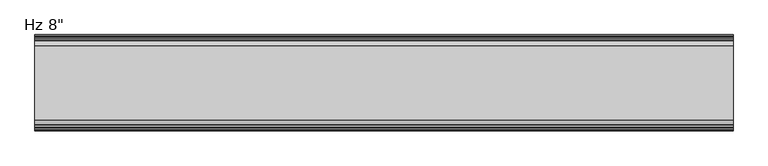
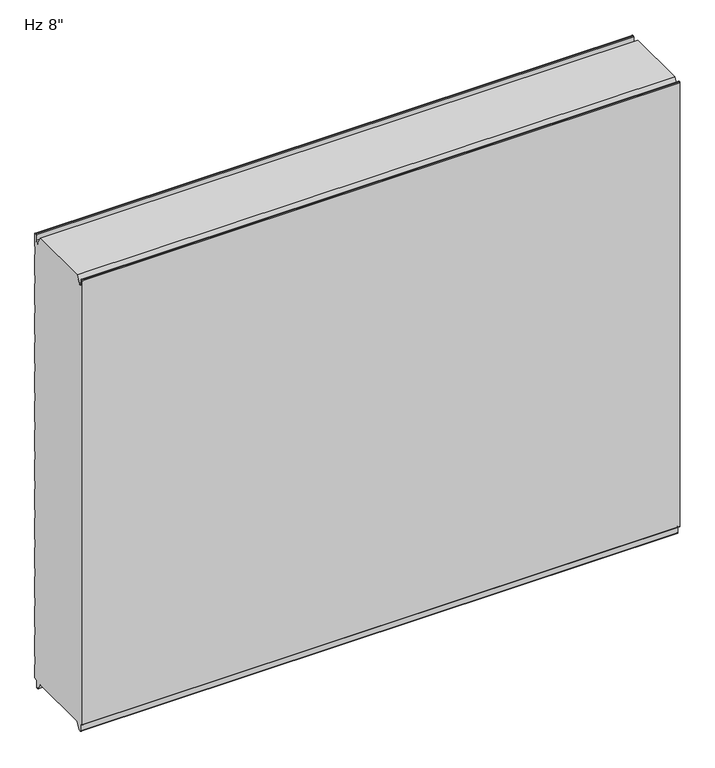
"""IFC4 building model written with IfcOpenShell, lengths in millimetres: plate geometry."""

from ifc_helpers import new_model, si_unit, frame, origin, place, context, project, spatial, polyline, circle_curve, source, transform, mapped, element, save
from ifc_brep_helpers import plane_surface, cylinder_surface, revolved_surface, advanced_brep


def plate_d750eb13(model_context):
    return source(origin(), model_context, "Body", "AdvancedBrep", [
        advanced_brep(
        [(-730.0, -200.2227194, 3.8499499), (-730.0, -202.1999935, 5.8272239), (-730.0, -202.2, 1150.8100652), (-730.0, -200.2227315, 1152.7873337), (-730.0, -199.1806329, 1152.7873337), (-730.0, -197.2033643, 1150.8100652), (-730.0, -197.2033643, 1136.6216802), (-730.0, -194.6154878, 1134.0338036), (-730.0, -190.2950697, 1134.0338036), (-730.0, -189.7060762, 1133.4253365), (-730.0, -189.7060762, 1131.0482432), (-730.0, -188.7066023, 1131.0482432), (-730.0, -188.7066023, 1136.4905123), (-730.0, -179.4490865, 1152.525), (-730.0, -23.7509179, 1152.525), (-730.0, -14.4934021, 1136.4905123), (-730.0, -14.4934021, 1131.0482432), (-730.0, -13.4939282, 1131.0482432), (-730.0, -13.4939282, 1133.4253365), (-730.0, -12.9049347, 1134.0338036), (-730.0, -8.5845165, 1134.0338036), (-730.0, -5.99664, 1136.6216802), (-730.0, -5.99664, 1150.8100652), (-730.0, -4.0193715, 1152.7873337), (-730.0, -2.9772729, 1152.7873337), (-730.0, -1.0000044, 1150.8100652), (-730.0, -1.0000044, 1118.6385351), (-730.0, -2.1911595, 1117.5660142), (-730.0, -2.1911595, 1097.7830195), (-730.0, -1.0, 1096.7104947), (-730.0, -1.0, 1043.0159187), (-730.0, -2.1911595, 1041.9433939), (-730.0, -2.1911595, 1022.1603992), (-730.0, -1.0, 1021.0878744), (-730.0, -1.0, 967.3932985), (-730.0, -2.1911595, 966.3207736), (-730.0, -2.1911595, 946.537779), (-730.0, -1.0, 945.4652541), (-730.0, -1.0, 891.7706782), (-730.0, -2.1911595, 890.6981534), (-730.0, -2.1911595, 870.9151587), (-730.0, -1.0, 869.8426339), (-730.0, -1.0, 816.148058), (-730.0, -2.1911595, 815.0755331), (-730.0, -2.1911595, 795.2925384), (-730.0, -1.0, 794.2200136), (-730.0, -1.0, 740.5254377), (-730.0, -2.1911595, 739.4529129), (-730.0, -2.1911595, 719.6699182), (-730.0, -1.0, 718.5973933), (-730.0, -1.0, 664.9028174), (-730.0, -2.1911595, 663.8302926), (-730.0, -2.1911595, 644.0472979), (-730.0, -1.0, 642.9747731), (-730.0, -1.0, 589.2801972), (-730.0, -2.1911595, 588.2076723), (-730.0, -2.1911595, 568.4246776), (-730.0, -1.0, 567.3521528), (-730.0, -1.0, 513.6575769), (-730.0, -2.1911595, 512.5850521), (-730.0, -2.1911595, 492.8020574), (-730.0, -1.0, 491.7295325), (-730.0, -1.0, 438.0349566), (-730.0, -2.1911595, 436.9624318), (-730.0, -2.1911595, 417.1794371), (-730.0, -1.0, 416.1069123), (-730.0, -1.0, 362.4123364), (-730.0, -2.1911595, 361.3398115), (-730.0, -2.1911595, 341.5568169), (-730.0, -1.0, 340.484292), (-730.0, -1.0, 286.7897161), (-730.0, -2.1911595, 285.7171913), (-730.0, -2.1911595, 265.9341966), (-730.0, -1.0, 264.8616718), (-730.0, -1.0, 211.1670958), (-730.0, -2.1911595, 210.094571), (-730.0, -2.1911595, 190.3115763), (-730.0, -1.0, 189.2390515), (-730.0, -1.0, 135.5444756), (-730.0, -2.1911595, 134.4719507), (-730.0, -2.1911595, 114.6889561), (-730.0, -1.0, 113.6164312), (-730.0, -1.0, 59.9218553), (-730.0, -2.1911595, 58.8493305), (-730.0, -2.1911595, 39.0663358), (-730.0, -1.0000109, 37.993811), (-730.0, -1.0000109, 5.8272239), (-730.0, -2.9772849, 3.8499499), (-730.0, -5.2691749, 3.8499499), (-730.0, -9.246442, -0.1273173), (-730.0, -9.246442, -15.7237417), (-730.0, -9.8343189, -16.3116186), (-730.0, -12.9058679, -16.3116186), (-730.0, -13.4937446, -15.723742), (-730.0, -13.4937446, -13.3687064), (-730.0, -14.4937446, -13.3687064), (-730.0, -14.4937446, -15.6582851), (-730.0, -23.7509179, 0.0), (-730.0, -179.4490865, 0.0), (-730.0, -188.7062598, -15.6582851), (-730.0, -188.7062598, -13.3687064), (-730.0, -189.7062598, -13.3687064), (-730.0, -189.7062598, -15.723742), (-730.0, -190.2941365, -16.3116186), (-730.0, -193.3656854, -16.3116186), (-730.0, -193.9535623, -15.7237417), (-730.0, -193.9535623, -0.1273173), (-730.0, -197.9308295, 3.8499499), (730.0, -200.2227194, 3.8499499), (730.0, -197.9308295, 3.8499499), (730.0, -193.9535623, -0.1273173), (730.0, -193.9535623, -15.7237417), (730.0, -193.3656854, -16.3116186), (730.0, -190.2941365, -16.3116186), (730.0, -189.7062598, -15.723742), (730.0, -189.7062598, -13.3687064), (730.0, -188.7062598, -13.3687064), (730.0, -188.7062598, -15.6582851), (730.0, -179.4490865, 0.0), (730.0, -23.7509179, 0.0), (730.0, -14.4937446, -15.6582851), (730.0, -14.4937446, -13.3687064), (730.0, -13.4937446, -13.3687064), (730.0, -13.4937446, -15.723742), (730.0, -12.9058679, -16.3116186), (730.0, -9.8343189, -16.3116186), (730.0, -9.246442, -15.7237417), (730.0, -9.246442, -0.1273173), (730.0, -5.2691749, 3.8499499), (730.0, -2.9772849, 3.8499499), (730.0, -1.0000109, 5.8272239), (730.0, -1.0000109, 37.993811), (730.0, -2.1911595, 39.0663358), (730.0, -2.1911595, 58.8493305), (730.0, -1.0, 59.9218553), (730.0, -1.0, 113.6164312), (730.0, -2.1911595, 114.6889561), (730.0, -2.1911595, 134.4719507), (730.0, -1.0, 135.5444756), (730.0, -1.0, 189.2390515), (730.0, -2.1911595, 190.3115763), (730.0, -2.1911595, 210.094571), (730.0, -1.0, 211.1670958), (730.0, -1.0, 264.8616718), (730.0, -2.1911595, 265.9341966), (730.0, -2.1911595, 285.7171913), (730.0, -1.0, 286.7897161), (730.0, -1.0, 340.484292), (730.0, -2.1911595, 341.5568169), (730.0, -2.1911595, 361.3398115), (730.0, -1.0, 362.4123364), (730.0, -1.0, 416.1069123), (730.0, -2.1911595, 417.1794371), (730.0, -2.1911595, 436.9624318), (730.0, -1.0, 438.0349566), (730.0, -1.0, 491.7295325), (730.0, -2.1911595, 492.8020574), (730.0, -2.1911595, 512.5850521), (730.0, -1.0, 513.6575769), (730.0, -1.0, 567.3521528), (730.0, -2.1911595, 568.4246776), (730.0, -2.1911595, 588.2076723), (730.0, -1.0, 589.2801972), (730.0, -1.0, 642.9747731), (730.0, -2.1911595, 644.0472979), (730.0, -2.1911595, 663.8302926), (730.0, -1.0, 664.9028174), (730.0, -1.0, 718.5973933), (730.0, -2.1911595, 719.6699182), (730.0, -2.1911595, 739.4529129), (730.0, -1.0, 740.5254377), (730.0, -1.0, 794.2200136), (730.0, -2.1911595, 795.2925384), (730.0, -2.1911595, 815.0755331), (730.0, -1.0, 816.148058), (730.0, -1.0, 869.8426339), (730.0, -2.1911595, 870.9151587), (730.0, -2.1911595, 890.6981534), (730.0, -1.0, 891.7706782), (730.0, -1.0, 945.4652541), (730.0, -2.1911595, 946.537779), (730.0, -2.1911595, 966.3207736), (730.0, -1.0, 967.3932985), (730.0, -1.0, 1021.0878744), (730.0, -2.1911595, 1022.1603992), (730.0, -2.1911595, 1041.9433939), (730.0, -1.0, 1043.0159187), (730.0, -1.0, 1096.7104947), (730.0, -2.1911595, 1097.7830195), (730.0, -2.1911595, 1117.5660142), (730.0, -1.0000044, 1118.6385351), (730.0, -1.0000044, 1150.8100652), (730.0, -2.9772729, 1152.7873337), (730.0, -4.0193715, 1152.7873337), (730.0, -5.99664, 1150.8100652), (730.0, -5.99664, 1136.6216802), (730.0, -8.5845165, 1134.0338036), (730.0, -12.9049347, 1134.0338036), (730.0, -13.4939282, 1133.4253365), (730.0, -13.4939282, 1131.0482432), (730.0, -14.4934021, 1131.0482432), (730.0, -14.4934021, 1136.4905123), (730.0, -23.7509179, 1152.525), (730.0, -179.4490865, 1152.525), (730.0, -188.7066023, 1136.4905123), (730.0, -188.7066023, 1131.0482432), (730.0, -189.7060762, 1131.0482432), (730.0, -189.7060762, 1133.4253365), (730.0, -190.2950697, 1134.0338036), (730.0, -194.6154878, 1134.0338036), (730.0, -197.2033643, 1136.6216802), (730.0, -197.2033643, 1150.8100652), (730.0, -199.1806329, 1152.7873337), (730.0, -200.2227315, 1152.7873337), (730.0, -202.2, 1150.8100652), (730.0, -202.2, 5.8272239)],
        [
            (0, 1, circle_curve(frame((-730.0, -200.2227194, 5.8272239), z_axis=(-1.0, 0.0, 0.0), x_axis=(0.0, 0.0, -1.0)), 1.977274)),
            (1, 2),
            (2, 3, circle_curve(frame((-730.0, -200.2227315, 1150.8100652), z_axis=(-1.0, 0.0, 0.0), x_axis=(0.0, 0.0, -1.0)), 1.9772685)),
            (3, 4),
            (4, 5, circle_curve(frame((-730.0, -199.1806329, 1150.8100652), z_axis=(-1.0, 0.0, 0.0), x_axis=(0.0, 0.0, -1.0)), 1.9772685)),
            (5, 6),
            (6, 7, circle_curve(frame((-730.0, -194.6154878, 1136.6216802), z_axis=(1.0, 0.0, 0.0), x_axis=(0.0, 0.0, -1.0)), 2.5878765)),
            (7, 8),
            (8, 9, circle_curve(frame((-730.0, -190.2950697, 1133.4444985), z_axis=(-1.0, 0.0, 0.0), x_axis=(0.0, 0.0, -1.0)), 0.5893051)),
            (9, 10),
            (10, 11),
            (11, 12),
            (12, 13),
            (13, 14),
            (14, 15),
            (15, 16),
            (16, 17),
            (17, 18),
            (18, 19, circle_curve(frame((-730.0, -12.9049347, 1133.4444985), z_axis=(-1.0, 0.0, 0.0), x_axis=(0.0, 1.0, 0.0)), 0.5893051)),
            (19, 20),
            (20, 21, circle_curve(frame((-730.0, -8.5845165, 1136.6216802), z_axis=(1.0, 0.0, 0.0), x_axis=(0.0, 1.0, 0.0)), 2.5878765)),
            (21, 22),
            (22, 23, circle_curve(frame((-730.0, -4.0193715, 1150.8100652), z_axis=(-1.0, 0.0, 0.0), x_axis=(0.0, 1.0, 0.0)), 1.9772685)),
            (23, 24),
            (24, 25, circle_curve(frame((-730.0, -2.9772729, 1150.8100652), z_axis=(-1.0, 0.0, 0.0), x_axis=(0.0, 1.0, 0.0)), 1.9772685)),
            (25, 26),
            (26, 27),
            (27, 28),
            (28, 29),
            (29, 30),
            (30, 31),
            (31, 32),
            (32, 33),
            (33, 34),
            (34, 35),
            (35, 36),
            (36, 37),
            (37, 38),
            (38, 39),
            (39, 40),
            (40, 41),
            (41, 42),
            (42, 43),
            (43, 44),
            (44, 45),
            (45, 46),
            (46, 47),
            (47, 48),
            (48, 49),
            (49, 50),
            (50, 51),
            (51, 52),
            (52, 53),
            (53, 54),
            (54, 55),
            (55, 56),
            (56, 57),
            (57, 58),
            (58, 59),
            (59, 60),
            (60, 61),
            (61, 62),
            (62, 63),
            (63, 64),
            (64, 65),
            (65, 66),
            (66, 67),
            (67, 68),
            (68, 69),
            (69, 70),
            (70, 71),
            (71, 72),
            (72, 73),
            (73, 74),
            (74, 75),
            (75, 76),
            (76, 77),
            (77, 78),
            (78, 79),
            (79, 80),
            (80, 81),
            (81, 82),
            (82, 83),
            (83, 84),
            (84, 85),
            (85, 86),
            (86, 87, circle_curve(frame((-730.0, -2.9772849, 5.8272239), z_axis=(-1.0, 0.0, 0.0), x_axis=(0.0, 1.0, 0.0)), 1.977274)),
            (87, 88),
            (88, 89, circle_curve(frame((-730.0, -5.2691749, -0.1273173), z_axis=(1.0, 0.0, 0.0), x_axis=(0.0, 1.0, 0.0)), 3.9772671)),
            (89, 90),
            (90, 91, circle_curve(frame((-730.0, -9.8343189, -15.7237417), z_axis=(-1.0, 0.0, 0.0), x_axis=(0.0, 1.0, 0.0)), 0.5878769)),
            (91, 92),
            (92, 93, circle_curve(frame((-730.0, -12.9058679, -15.723742), z_axis=(-1.0, 0.0, 0.0), x_axis=(0.0, 1.0, 0.0)), 0.5878766)),
            (93, 94),
            (94, 95),
            (95, 96),
            (96, 97),
            (97, 98),
            (98, 99),
            (99, 100),
            (100, 101),
            (101, 102),
            (102, 103, circle_curve(frame((-730.0, -190.2941365, -15.723742), z_axis=(-1.0, 0.0, 0.0), x_axis=(0.0, 0.0, -1.0)), 0.5878766)),
            (103, 104),
            (104, 105, circle_curve(frame((-730.0, -193.3656854, -15.7237417), z_axis=(-1.0, 0.0, 0.0), x_axis=(0.0, 0.0, -1.0)), 0.5878769)),
            (105, 106),
            (106, 107, circle_curve(frame((-730.0, -197.9308295, -0.1273173), z_axis=(1.0, 0.0, 0.0), x_axis=(0.0, 0.0, -1.0)), 3.9772671)),
            (107, 0),
            (108, 109),
            (109, 110, circle_curve(frame((730.0, -197.9308295, -0.1273173), z_axis=(-1.0, 0.0, 0.0), x_axis=(0.0, 0.0, -1.0)), 3.9772671)),
            (110, 111),
            (111, 112, circle_curve(frame((730.0, -193.3656854, -15.7237417), z_axis=(1.0, 0.0, 0.0), x_axis=(0.0, 0.0, -1.0)), 0.5878769)),
            (112, 113),
            (113, 114, circle_curve(frame((730.0, -190.2941365, -15.723742), z_axis=(1.0, 0.0, 0.0), x_axis=(0.0, 0.0, -1.0)), 0.5878766)),
            (114, 115),
            (115, 116),
            (116, 117),
            (117, 118),
            (118, 119),
            (119, 120),
            (120, 121),
            (121, 122),
            (122, 123),
            (123, 124, circle_curve(frame((730.0, -12.9058679, -15.723742), z_axis=(1.0, 0.0, 0.0), x_axis=(0.0, 1.0, 0.0)), 0.5878766)),
            (124, 125),
            (125, 126, circle_curve(frame((730.0, -9.8343189, -15.7237417), z_axis=(1.0, 0.0, 0.0), x_axis=(0.0, 1.0, 0.0)), 0.5878769)),
            (126, 127),
            (127, 128, circle_curve(frame((730.0, -5.2691749, -0.1273173), z_axis=(-1.0, 0.0, 0.0), x_axis=(0.0, 1.0, 0.0)), 3.9772671)),
            (128, 129),
            (129, 130, circle_curve(frame((730.0, -2.9772849, 5.8272239), z_axis=(1.0, 0.0, 0.0), x_axis=(0.0, 1.0, 0.0)), 1.977274)),
            (130, 131),
            (131, 132),
            (132, 133),
            (133, 134),
            (134, 135),
            (135, 136),
            (136, 137),
            (137, 138),
            (138, 139),
            (139, 140),
            (140, 141),
            (141, 142),
            (142, 143),
            (143, 144),
            (144, 145),
            (145, 146),
            (146, 147),
            (147, 148),
            (148, 149),
            (149, 150),
            (150, 151),
            (151, 152),
            (152, 153),
            (153, 154),
            (154, 155),
            (155, 156),
            (156, 157),
            (157, 158),
            (158, 159),
            (159, 160),
            (160, 161),
            (161, 162),
            (162, 163),
            (163, 164),
            (164, 165),
            (165, 166),
            (166, 167),
            (167, 168),
            (168, 169),
            (169, 170),
            (170, 171),
            (171, 172),
            (172, 173),
            (173, 174),
            (174, 175),
            (175, 176),
            (176, 177),
            (177, 178),
            (178, 179),
            (179, 180),
            (180, 181),
            (181, 182),
            (182, 183),
            (183, 184),
            (184, 185),
            (185, 186),
            (186, 187),
            (187, 188),
            (188, 189),
            (189, 190),
            (190, 191),
            (191, 192, circle_curve(frame((730.0, -2.9772729, 1150.8100652), z_axis=(1.0, 0.0, 0.0), x_axis=(0.0, 1.0, 0.0)), 1.9772685)),
            (192, 193),
            (193, 194, circle_curve(frame((730.0, -4.0193715, 1150.8100652), z_axis=(1.0, 0.0, 0.0), x_axis=(0.0, 1.0, 0.0)), 1.9772685)),
            (194, 195),
            (195, 196, circle_curve(frame((730.0, -8.5845165, 1136.6216802), z_axis=(-1.0, 0.0, 0.0), x_axis=(0.0, 1.0, 0.0)), 2.5878765)),
            (196, 197),
            (197, 198, circle_curve(frame((730.0, -12.9049347, 1133.4444985), z_axis=(1.0, 0.0, 0.0), x_axis=(0.0, 1.0, 0.0)), 0.5893051)),
            (198, 199),
            (199, 200),
            (200, 201),
            (201, 202),
            (202, 203),
            (203, 204),
            (204, 205),
            (205, 206),
            (206, 207),
            (207, 208, circle_curve(frame((730.0, -190.2950697, 1133.4444985), z_axis=(1.0, 0.0, 0.0), x_axis=(0.0, 0.0, -1.0)), 0.5893051)),
            (208, 209),
            (209, 210, circle_curve(frame((730.0, -194.6154878, 1136.6216802), z_axis=(-1.0, 0.0, 0.0), x_axis=(0.0, 0.0, -1.0)), 2.5878765)),
            (210, 211),
            (211, 212, circle_curve(frame((730.0, -199.1806329, 1150.8100652), z_axis=(1.0, 0.0, 0.0), x_axis=(0.0, 0.0, -1.0)), 1.9772685)),
            (212, 213),
            (213, 214, circle_curve(frame((730.0, -200.2227315, 1150.8100652), z_axis=(1.0, 0.0, 0.0), x_axis=(0.0, 0.0, -1.0)), 1.9772685)),
            (214, 215),
            (215, 108, circle_curve(frame((730.0, -200.2227194, 5.8272239), z_axis=(1.0, 0.0, 0.0), x_axis=(0.0, 0.0, -1.0)), 1.977274)),
            (27, 189),
            (188, 28),
            (26, 190),
            (25, 191),
            (24, 192),
            (23, 193),
            (22, 194),
            (21, 195),
            (20, 196),
            (19, 197),
            (18, 198),
            (17, 199),
            (16, 200),
            (15, 201),
            (14, 202),
            (96, 120),
            (119, 97),
            (95, 121),
            (94, 122),
            (93, 123),
            (92, 124),
            (91, 125),
            (90, 126),
            (89, 127),
            (88, 128),
            (87, 129),
            (86, 130),
            (85, 131),
            (84, 132),
            (83, 133),
            (82, 134),
            (81, 135),
            (80, 136),
            (79, 137),
            (78, 138),
            (77, 139),
            (76, 140),
            (75, 141),
            (74, 142),
            (73, 143),
            (72, 144),
            (71, 145),
            (70, 146),
            (69, 147),
            (68, 148),
            (67, 149),
            (66, 150),
            (65, 151),
            (64, 152),
            (63, 153),
            (62, 154),
            (61, 155),
            (60, 156),
            (59, 157),
            (58, 158),
            (57, 159),
            (56, 160),
            (55, 161),
            (54, 162),
            (53, 163),
            (52, 164),
            (51, 165),
            (50, 166),
            (49, 167),
            (48, 168),
            (47, 169),
            (46, 170),
            (45, 171),
            (44, 172),
            (43, 173),
            (42, 174),
            (41, 175),
            (40, 176),
            (39, 177),
            (38, 178),
            (37, 179),
            (36, 180),
            (35, 181),
            (34, 182),
            (33, 183),
            (32, 184),
            (31, 185),
            (30, 186),
            (29, 187),
            (13, 203),
            (118, 98),
            (107, 109),
            (108, 0),
            (106, 110),
            (105, 111),
            (104, 112),
            (103, 113),
            (102, 114),
            (101, 115),
            (100, 116),
            (99, 117),
            (12, 204),
            (11, 205),
            (10, 206),
            (9, 207),
            (8, 208),
            (7, 209),
            (6, 210),
            (5, 211),
            (4, 212),
            (3, 213),
            (2, 214),
            (1, 215),
        ],
        [
            plane_surface(frame((-730.0, -202.2, 576.2625), z_axis=(-1.0, 0.0, 0.0), x_axis=(0.0, -1.0, 0.0))),
            plane_surface(frame((730.0, -202.2, 576.2625), z_axis=(1.0, 0.0, 0.0), x_axis=(0.0, -1.0, 0.0))),
            plane_surface(frame((-730.0, -2.1911595, 1097.7830195), z_axis=(0.0, 1.0, 0.0), x_axis=(1.0, 0.0, 0.0))),
            plane_surface(frame((-730.0, -2.1911595, 1117.5660142), z_axis=(0.0, 0.669130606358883, -0.7431448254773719), x_axis=(1.0, 0.0, 0.0))),
            plane_surface(frame((-730.0, -1.0000044, 1118.6385351), z_axis=(0.0, 1.0, 0.0), x_axis=(1.0, 0.0, 0.0))),
            cylinder_surface(frame((-730.0, -2.9772729, 1150.8100652), z_axis=(-1.0, 0.0, 0.0), x_axis=(0.0, 1.0, 0.0)), 1.9772685),
            plane_surface(frame((-730.0, -2.9772729, 1152.7873337), z_axis=(0.0, 0.0, 1.0), x_axis=(1.0, 0.0, 0.0))),
            cylinder_surface(frame((-730.0, -4.0193715, 1150.8100652), z_axis=(-1.0, 0.0, 0.0), x_axis=(0.0, 1.0, 0.0)), 1.9772685),
            plane_surface(frame((-730.0, -5.99664, 1150.8100652), z_axis=(0.0, -1.0, 0.0), x_axis=(1.0, 0.0, 0.0))),
            revolved_surface(polyline([(730.0, -5.996639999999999, 1136.6216802), (-730.0, -5.996639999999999, 1136.6216802)]), (-730.0, -8.5845165, 1136.6216802), (1.0, 0.0, 0.0)),
            plane_surface(frame((-730.0, -8.5845165, 1134.0338036), z_axis=(0.0, 0.0, 1.0), x_axis=(1.0, 0.0, 0.0))),
            cylinder_surface(frame((-730.0, -12.9049347, 1133.4444985), z_axis=(-1.0, 0.0, 0.0), x_axis=(0.0, 1.0, 0.0)), 0.5893051),
            plane_surface(frame((-730.0, -13.4939282, 1133.4253365), z_axis=(0.0, -1.0, 0.0), x_axis=(1.0, 0.0, 0.0))),
            plane_surface(frame((-730.0, -13.4939282, 1131.0482432), z_axis=(0.0, 0.0, 1.0), x_axis=(1.0, 0.0, 0.0))),
            plane_surface(frame((-730.0, -14.4934021, 1131.0482432), z_axis=(0.0, 1.0, 0.0), x_axis=(1.0, 0.0, 0.0))),
            plane_surface(frame((-730.0, -14.4934021, 1136.4905123), z_axis=(0.0, 0.8660254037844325, 0.5000000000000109), x_axis=(1.0, 0.0, 0.0))),
            plane_surface(frame((-730.0, -23.7509179, 0.0), z_axis=(0.0, -0.8608169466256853, -0.5089147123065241), x_axis=(1.0, 0.0, 0.0))),
            plane_surface(frame((-730.0, -14.4937446, -15.6582851), z_axis=(0.0, 1.0, 0.0), x_axis=(1.0, 0.0, 0.0))),
            plane_surface(frame((-730.0, -14.4937446, -13.3687064), z_axis=(0.0, 0.0, -1.0), x_axis=(1.0, 0.0, 0.0))),
            plane_surface(frame((-730.0, -13.4937446, -13.3687064), z_axis=(0.0, -1.0, 0.0), x_axis=(1.0, 0.0, 0.0))),
            cylinder_surface(frame((-730.0, -12.9058679, -15.723742), z_axis=(-1.0, 0.0, 0.0), x_axis=(0.0, 1.0, 0.0)), 0.5878766),
            plane_surface(frame((-730.0, -12.9058679, -16.3116186), z_axis=(0.0, 0.0, -1.0), x_axis=(1.0, 0.0, 0.0))),
            cylinder_surface(frame((-730.0, -9.8343189, -15.7237417), z_axis=(-1.0, 0.0, 0.0), x_axis=(0.0, 1.0, 0.0)), 0.5878769),
            plane_surface(frame((-730.0, -9.246442, -15.7237417), z_axis=(0.0, 1.0, 0.0), x_axis=(1.0, 0.0, 0.0))),
            revolved_surface(polyline([(730.0, -1.2919078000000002, -0.1273173), (-730.0, -1.2919078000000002, -0.1273173)]), (-730.0, -5.2691749, -0.1273173), (1.0, 0.0, 0.0)),
            plane_surface(frame((-730.0, -5.2691749, 3.8499499), z_axis=(0.0, 0.0, -1.0), x_axis=(1.0, 0.0, 0.0))),
            cylinder_surface(frame((-730.0, -2.9772849, 5.8272239), z_axis=(-1.0, 0.0, 0.0), x_axis=(0.0, 1.0, 0.0)), 1.977274),
            plane_surface(frame((-730.0, -1.0000109, 5.8272239), z_axis=(0.0, 1.0, 0.0), x_axis=(1.0, 0.0, 0.0))),
            plane_surface(frame((-730.0, -1.0000109, 37.993811), z_axis=(0.0, 0.6691339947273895, 0.7431417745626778), x_axis=(1.0, 0.0, 0.0))),
            plane_surface(frame((-730.0, -2.1911595, 39.0663358), z_axis=(0.0, 1.0, 0.0), x_axis=(1.0, 0.0, 0.0))),
            plane_surface(frame((-730.0, -2.1911595, 58.8493305), z_axis=(0.0, 0.6691306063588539, -0.7431448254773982), x_axis=(1.0, 0.0, 0.0))),
            plane_surface(frame((-730.0, -1.0, 59.9218553), z_axis=(0.0, 1.0, 0.0), x_axis=(1.0, 0.0, 0.0))),
            plane_surface(frame((-730.0, -1.0, 113.6164312), z_axis=(0.0, 0.6691306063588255, 0.7431448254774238), x_axis=(1.0, 0.0, 0.0))),
            plane_surface(frame((-730.0, -2.1911595, 114.6889561), z_axis=(0.0, 1.0, 0.0), x_axis=(1.0, 0.0, 0.0))),
            plane_surface(frame((-730.0, -2.1911595, 134.4719507), z_axis=(0.0, 0.6691306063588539, -0.7431448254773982), x_axis=(1.0, 0.0, 0.0))),
            plane_surface(frame((-730.0, -1.0, 135.5444756), z_axis=(0.0, 1.0, 0.0), x_axis=(1.0, 0.0, 0.0))),
            plane_surface(frame((-730.0, -1.0, 189.2390515), z_axis=(0.0, 0.669130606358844, 0.743144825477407), x_axis=(1.0, 0.0, 0.0))),
            plane_surface(frame((-730.0, -2.1911595, 190.3115763), z_axis=(0.0, 1.0, 0.0), x_axis=(1.0, 0.0, 0.0))),
            plane_surface(frame((-730.0, -2.1911595, 210.094571), z_axis=(0.0, 0.6691306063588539, -0.7431448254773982), x_axis=(1.0, 0.0, 0.0))),
            plane_surface(frame((-730.0, -1.0, 211.1670958), z_axis=(0.0, 1.0, 0.0), x_axis=(1.0, 0.0, 0.0))),
            plane_surface(frame((-730.0, -1.0, 264.8616718), z_axis=(0.0, 0.6691306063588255, 0.7431448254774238), x_axis=(1.0, 0.0, 0.0))),
            plane_surface(frame((-730.0, -2.1911595, 265.9341966), z_axis=(0.0, 1.0, 0.0), x_axis=(1.0, 0.0, 0.0))),
            plane_surface(frame((-730.0, -2.1911595, 285.7171913), z_axis=(0.0, 0.6691306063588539, -0.7431448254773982), x_axis=(1.0, 0.0, 0.0))),
            plane_surface(frame((-730.0, -1.0, 286.7897161), z_axis=(0.0, 1.0, 0.0), x_axis=(1.0, 0.0, 0.0))),
            plane_surface(frame((-730.0, -1.0, 340.484292), z_axis=(0.0, 0.669130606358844, 0.743144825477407), x_axis=(1.0, 0.0, 0.0))),
            plane_surface(frame((-730.0, -2.1911595, 341.5568169), z_axis=(0.0, 1.0, 0.0), x_axis=(1.0, 0.0, 0.0))),
            plane_surface(frame((-730.0, -2.1911595, 361.3398115), z_axis=(0.0, 0.6691306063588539, -0.7431448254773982), x_axis=(1.0, 0.0, 0.0))),
            plane_surface(frame((-730.0, -1.0, 362.4123364), z_axis=(0.0, 1.0, 0.0), x_axis=(1.0, 0.0, 0.0))),
            plane_surface(frame((-730.0, -1.0, 416.1069123), z_axis=(0.0, 0.669130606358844, 0.743144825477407), x_axis=(1.0, 0.0, 0.0))),
            plane_surface(frame((-730.0, -2.1911595, 417.1794371), z_axis=(0.0, 1.0, 0.0), x_axis=(1.0, 0.0, 0.0))),
            plane_surface(frame((-730.0, -2.1911595, 436.9624318), z_axis=(0.0, 0.6691306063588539, -0.7431448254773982), x_axis=(1.0, 0.0, 0.0))),
            plane_surface(frame((-730.0, -1.0, 438.0349566), z_axis=(0.0, 1.0, 0.0), x_axis=(1.0, 0.0, 0.0))),
            plane_surface(frame((-730.0, -1.0, 491.7295325), z_axis=(0.0, 0.6691306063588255, 0.7431448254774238), x_axis=(1.0, 0.0, 0.0))),
            plane_surface(frame((-730.0, -2.1911595, 492.8020574), z_axis=(0.0, 1.0, 0.0), x_axis=(1.0, 0.0, 0.0))),
            plane_surface(frame((-730.0, -2.1911595, 512.5850521), z_axis=(0.0, 0.6691306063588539, -0.7431448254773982), x_axis=(1.0, 0.0, 0.0))),
            plane_surface(frame((-730.0, -1.0, 513.6575769), z_axis=(0.0, 1.0, 0.0), x_axis=(1.0, 0.0, 0.0))),
            plane_surface(frame((-730.0, -1.0, 567.3521528), z_axis=(0.0, 0.669130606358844, 0.743144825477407), x_axis=(1.0, 0.0, 0.0))),
            plane_surface(frame((-730.0, -2.1911595, 568.4246776), z_axis=(0.0, 1.0, 0.0), x_axis=(1.0, 0.0, 0.0))),
            plane_surface(frame((-730.0, -2.1911595, 588.2076723), z_axis=(0.0, 0.6691306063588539, -0.7431448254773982), x_axis=(1.0, 0.0, 0.0))),
            plane_surface(frame((-730.0, -1.0, 589.2801972), z_axis=(0.0, 1.0, 0.0), x_axis=(1.0, 0.0, 0.0))),
            plane_surface(frame((-730.0, -1.0, 642.9747731), z_axis=(0.0, 0.6691306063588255, 0.7431448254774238), x_axis=(1.0, 0.0, 0.0))),
            plane_surface(frame((-730.0, -2.1911595, 644.0472979), z_axis=(0.0, 1.0, 0.0), x_axis=(1.0, 0.0, 0.0))),
            plane_surface(frame((-730.0, -2.1911595, 663.8302926), z_axis=(0.0, 0.6691306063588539, -0.7431448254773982), x_axis=(1.0, 0.0, 0.0))),
            plane_surface(frame((-730.0, -1.0, 664.9028174), z_axis=(0.0, 1.0, 0.0), x_axis=(1.0, 0.0, 0.0))),
            plane_surface(frame((-730.0, -1.0, 718.5973933), z_axis=(0.0, 0.669130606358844, 0.743144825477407), x_axis=(1.0, 0.0, 0.0))),
            plane_surface(frame((-730.0, -2.1911595, 719.6699182), z_axis=(0.0, 1.0, 0.0), x_axis=(1.0, 0.0, 0.0))),
            plane_surface(frame((-730.0, -2.1911595, 739.4529129), z_axis=(0.0, 0.6691306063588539, -0.7431448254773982), x_axis=(1.0, 0.0, 0.0))),
            plane_surface(frame((-730.0, -1.0, 740.5254377), z_axis=(0.0, 1.0, 0.0), x_axis=(1.0, 0.0, 0.0))),
            plane_surface(frame((-730.0, -1.0, 794.2200136), z_axis=(0.0, 0.6691306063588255, 0.7431448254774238), x_axis=(1.0, 0.0, 0.0))),
            plane_surface(frame((-730.0, -2.1911595, 795.2925384), z_axis=(0.0, 1.0, 0.0), x_axis=(1.0, 0.0, 0.0))),
            plane_surface(frame((-730.0, -2.1911595, 815.0755331), z_axis=(0.0, 0.6691306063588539, -0.7431448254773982), x_axis=(1.0, 0.0, 0.0))),
            plane_surface(frame((-730.0, -1.0, 816.148058), z_axis=(0.0, 1.0, 0.0), x_axis=(1.0, 0.0, 0.0))),
            plane_surface(frame((-730.0, -1.0, 869.8426339), z_axis=(0.0, 0.669130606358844, 0.743144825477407), x_axis=(1.0, 0.0, 0.0))),
            plane_surface(frame((-730.0, -2.1911595, 870.9151587), z_axis=(0.0, 1.0, 0.0), x_axis=(1.0, 0.0, 0.0))),
            plane_surface(frame((-730.0, -2.1911595, 890.6981534), z_axis=(0.0, 0.6691306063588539, -0.7431448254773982), x_axis=(1.0, 0.0, 0.0))),
            plane_surface(frame((-730.0, -1.0, 891.7706782), z_axis=(0.0, 1.0, 0.0), x_axis=(1.0, 0.0, 0.0))),
            plane_surface(frame((-730.0, -1.0, 945.4652541), z_axis=(0.0, 0.669130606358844, 0.743144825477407), x_axis=(1.0, 0.0, 0.0))),
            plane_surface(frame((-730.0, -2.1911595, 946.537779), z_axis=(0.0, 1.0, 0.0), x_axis=(1.0, 0.0, 0.0))),
            plane_surface(frame((-730.0, -2.1911595, 966.3207736), z_axis=(0.0, 0.6691306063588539, -0.7431448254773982), x_axis=(1.0, 0.0, 0.0))),
            plane_surface(frame((-730.0, -1.0, 967.3932985), z_axis=(0.0, 1.0, 0.0), x_axis=(1.0, 0.0, 0.0))),
            plane_surface(frame((-730.0, -1.0, 1021.0878744), z_axis=(0.0, 0.669130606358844, 0.743144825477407), x_axis=(1.0, 0.0, 0.0))),
            plane_surface(frame((-730.0, -2.1911595, 1022.1603992), z_axis=(0.0, 1.0, 0.0), x_axis=(1.0, 0.0, 0.0))),
            plane_surface(frame((-730.0, -2.1911595, 1041.9433939), z_axis=(0.0, 0.6691306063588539, -0.7431448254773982), x_axis=(1.0, 0.0, 0.0))),
            plane_surface(frame((-730.0, -1.0, 1043.0159187), z_axis=(0.0, 1.0, 0.0), x_axis=(1.0, 0.0, 0.0))),
            plane_surface(frame((-730.0, -1.0, 1096.7104947), z_axis=(0.0, 0.669130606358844, 0.743144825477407), x_axis=(1.0, 0.0, 0.0))),
            plane_surface(frame((-730.0, -179.4490865, 1152.525), z_axis=(0.0, 0.0, 1.0), x_axis=(-1.0, 0.0, 0.0))),
            plane_surface(frame((-730.0, -179.4490865, 0.0), z_axis=(0.0, 0.0, -1.0), x_axis=(1.0, 0.0, 0.0))),
            plane_surface(frame((-730.0, -200.2227194, 3.8499499), z_axis=(0.0, 0.0, -1.0), x_axis=(1.0, 0.0, 0.0))),
            revolved_surface(polyline([(730.0, -197.9308295, -4.1045844), (-730.0, -197.9308295, -4.1045844)]), (-730.0, -197.9308295, -0.1273173), (1.0, 0.0, 0.0)),
            plane_surface(frame((-730.0, -193.9535623, -0.1273173), z_axis=(0.0, -1.0, 0.0), x_axis=(1.0, 0.0, 0.0))),
            cylinder_surface(frame((-730.0, -193.3656854, -15.7237417), z_axis=(-1.0, 0.0, 0.0), x_axis=(0.0, 0.0, -1.0)), 0.5878769),
            plane_surface(frame((-730.0, -193.3656854, -16.3116186), z_axis=(0.0, 0.0, -1.0), x_axis=(1.0, 0.0, 0.0))),
            cylinder_surface(frame((-730.0, -190.2941365, -15.723742), z_axis=(-1.0, 0.0, 0.0), x_axis=(0.0, 0.0, -1.0)), 0.5878766),
            plane_surface(frame((-730.0, -189.7062598, -15.723742), z_axis=(0.0, 1.0, 0.0), x_axis=(1.0, 0.0, 0.0))),
            plane_surface(frame((-730.0, -189.7062598, -13.3687064), z_axis=(0.0, 0.0, -1.0), x_axis=(1.0, 0.0, 0.0))),
            plane_surface(frame((-730.0, -188.7062598, -13.3687064), z_axis=(0.0, -1.0, 0.0), x_axis=(1.0, 0.0, 0.0))),
            plane_surface(frame((-730.0, -188.7062598, -15.6582851), z_axis=(0.0, 0.8608169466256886, -0.5089147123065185), x_axis=(1.0, 0.0, 0.0))),
            plane_surface(frame((-730.0, -179.4490865, 1152.525), z_axis=(0.0, -0.8660254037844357, 0.5000000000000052), x_axis=(1.0, 0.0, 0.0))),
            plane_surface(frame((-730.0, -188.7066023, 1136.4905123), z_axis=(0.0, -1.0, 0.0), x_axis=(1.0, 0.0, 0.0))),
            plane_surface(frame((-730.0, -188.7066023, 1131.0482432), z_axis=(0.0, 0.0, 1.0), x_axis=(1.0, 0.0, 0.0))),
            plane_surface(frame((-730.0, -189.7060762, 1131.0482432), z_axis=(0.0, 1.0, 0.0), x_axis=(1.0, 0.0, 0.0))),
            cylinder_surface(frame((-730.0, -190.2950697, 1133.4444985), z_axis=(-1.0, 0.0, 0.0), x_axis=(0.0, 0.0, -1.0)), 0.5893051),
            plane_surface(frame((-730.0, -190.2950697, 1134.0338036), z_axis=(0.0, 0.0, 1.0), x_axis=(1.0, 0.0, 0.0))),
            revolved_surface(polyline([(730.0, -194.6154878, 1134.0338037), (-730.0, -194.6154878, 1134.0338037)]), (-730.0, -194.6154878, 1136.6216802), (1.0, 0.0, 0.0)),
            plane_surface(frame((-730.0, -197.2033643, 1136.6216802), z_axis=(0.0, 1.0, 0.0), x_axis=(1.0, 0.0, 0.0))),
            cylinder_surface(frame((-730.0, -199.1806329, 1150.8100652), z_axis=(-1.0, 0.0, 0.0), x_axis=(0.0, 0.0, -1.0)), 1.9772685),
            plane_surface(frame((-730.0, -199.1806329, 1152.7873337), z_axis=(0.0, 0.0, 1.0), x_axis=(1.0, 0.0, 0.0))),
            cylinder_surface(frame((-730.0, -200.2227315, 1150.8100652), z_axis=(-1.0, 0.0, 0.0), x_axis=(0.0, 0.0, -1.0)), 1.9772685),
            plane_surface(frame((-730.0, -202.2, 1150.8100652), z_axis=(0.0, -1.0, 0.0), x_axis=(1.0, 0.0, 0.0))),
            cylinder_surface(frame((-730.0, -200.2227194, 5.8272239), z_axis=(-1.0, 0.0, 0.0), x_axis=(0.0, 0.0, -1.0)), 1.977274),
        ],
        [
            (0, [[1, 2, 3, 4, 5, 6, 7, 8, 9, 10, 11, 12, 13, 14, 15, 16, 17, 18, 19, 20, 21, 22, 23, 24, 25, 26, 27, 28, 29, 30, 31, 32, 33, 34, 35, 36, 37, 38, 39, 40, 41, 42, 43, 44, 45, 46, 47, 48, 49, 50, 51, 52, 53, 54, 55, 56, 57, 58, 59, 60, 61, 62, 63, 64, 65, 66, 67, 68, 69, 70, 71, 72, 73, 74, 75, 76, 77, 78, 79, 80, 81, 82, 83, 84, 85, 86, 87, 88, 89, 90, 91, 92, 93, 94, 95, 96, 97, 98, 99, 100, 101, 102, 103, 104, 105, 106, 107, 108]]),
            (1, [[109, 110, 111, 112, 113, 114, 115, 116, 117, 118, 119, 120, 121, 122, 123, 124, 125, 126, 127, 128, 129, 130, 131, 132, 133, 134, 135, 136, 137, 138, 139, 140, 141, 142, 143, 144, 145, 146, 147, 148, 149, 150, 151, 152, 153, 154, 155, 156, 157, 158, 159, 160, 161, 162, 163, 164, 165, 166, 167, 168, 169, 170, 171, 172, 173, 174, 175, 176, 177, 178, 179, 180, 181, 182, 183, 184, 185, 186, 187, 188, 189, 190, 191, 192, 193, 194, 195, 196, 197, 198, 199, 200, 201, 202, 203, 204, 205, 206, 207, 208, 209, 210, 211, 212, 213, 214, 215, 216]]),
            (2, [[217, -189, 218, -28]]),
            (3, [[219, -190, -217, -27]]),
            (4, [[220, -191, -219, -26]]),
            (5, [[221, -192, -220, -25]]),
            (6, [[222, -193, -221, -24]]),
            (7, [[223, -194, -222, -23]]),
            (8, [[224, -195, -223, -22]]),
            (9, [[225, -196, -224, -21]]),
            (10, [[226, -197, -225, -20]]),
            (11, [[227, -198, -226, -19]]),
            (12, [[228, -199, -227, -18]]),
            (13, [[229, -200, -228, -17]]),
            (14, [[230, -201, -229, -16]]),
            (15, [[231, -202, -230, -15]]),
            (16, [[232, -120, 233, -97]]),
            (17, [[234, -121, -232, -96]]),
            (18, [[235, -122, -234, -95]]),
            (19, [[236, -123, -235, -94]]),
            (20, [[237, -124, -236, -93]]),
            (21, [[238, -125, -237, -92]]),
            (22, [[239, -126, -238, -91]]),
            (23, [[240, -127, -239, -90]]),
            (24, [[241, -128, -240, -89]]),
            (25, [[242, -129, -241, -88]]),
            (26, [[243, -130, -242, -87]]),
            (27, [[244, -131, -243, -86]]),
            (28, [[245, -132, -244, -85]]),
            (29, [[246, -133, -245, -84]]),
            (30, [[247, -134, -246, -83]]),
            (31, [[248, -135, -247, -82]]),
            (32, [[249, -136, -248, -81]]),
            (33, [[250, -137, -249, -80]]),
            (34, [[251, -138, -250, -79]]),
            (35, [[252, -139, -251, -78]]),
            (36, [[253, -140, -252, -77]]),
            (37, [[254, -141, -253, -76]]),
            (38, [[255, -142, -254, -75]]),
            (39, [[256, -143, -255, -74]]),
            (40, [[257, -144, -256, -73]]),
            (41, [[258, -145, -257, -72]]),
            (42, [[259, -146, -258, -71]]),
            (43, [[260, -147, -259, -70]]),
            (44, [[261, -148, -260, -69]]),
            (45, [[262, -149, -261, -68]]),
            (46, [[263, -150, -262, -67]]),
            (47, [[264, -151, -263, -66]]),
            (48, [[265, -152, -264, -65]]),
            (49, [[266, -153, -265, -64]]),
            (50, [[267, -154, -266, -63]]),
            (51, [[268, -155, -267, -62]]),
            (52, [[269, -156, -268, -61]]),
            (53, [[270, -157, -269, -60]]),
            (54, [[271, -158, -270, -59]]),
            (55, [[272, -159, -271, -58]]),
            (56, [[273, -160, -272, -57]]),
            (57, [[274, -161, -273, -56]]),
            (58, [[275, -162, -274, -55]]),
            (59, [[276, -163, -275, -54]]),
            (60, [[277, -164, -276, -53]]),
            (61, [[278, -165, -277, -52]]),
            (62, [[279, -166, -278, -51]]),
            (63, [[280, -167, -279, -50]]),
            (64, [[281, -168, -280, -49]]),
            (65, [[282, -169, -281, -48]]),
            (66, [[283, -170, -282, -47]]),
            (67, [[284, -171, -283, -46]]),
            (68, [[285, -172, -284, -45]]),
            (69, [[286, -173, -285, -44]]),
            (70, [[287, -174, -286, -43]]),
            (71, [[288, -175, -287, -42]]),
            (72, [[289, -176, -288, -41]]),
            (73, [[290, -177, -289, -40]]),
            (74, [[291, -178, -290, -39]]),
            (75, [[292, -179, -291, -38]]),
            (76, [[293, -180, -292, -37]]),
            (77, [[294, -181, -293, -36]]),
            (78, [[295, -182, -294, -35]]),
            (79, [[296, -183, -295, -34]]),
            (80, [[297, -184, -296, -33]]),
            (81, [[298, -185, -297, -32]]),
            (82, [[299, -186, -298, -31]]),
            (83, [[300, -187, -299, -30]]),
            (84, [[-218, -188, -300, -29]]),
            (85, [[301, -203, -231, -14]]),
            (86, [[302, -98, -233, -119]]),
            (87, [[303, -109, 304, -108]]),
            (88, [[305, -110, -303, -107]]),
            (89, [[306, -111, -305, -106]]),
            (90, [[307, -112, -306, -105]]),
            (91, [[308, -113, -307, -104]]),
            (92, [[309, -114, -308, -103]]),
            (93, [[310, -115, -309, -102]]),
            (94, [[311, -116, -310, -101]]),
            (95, [[312, -117, -311, -100]]),
            (96, [[-302, -118, -312, -99]]),
            (97, [[313, -204, -301, -13]]),
            (98, [[314, -205, -313, -12]]),
            (99, [[315, -206, -314, -11]]),
            (100, [[316, -207, -315, -10]]),
            (101, [[317, -208, -316, -9]]),
            (102, [[318, -209, -317, -8]]),
            (103, [[319, -210, -318, -7]]),
            (104, [[320, -211, -319, -6]]),
            (105, [[321, -212, -320, -5]]),
            (106, [[322, -213, -321, -4]]),
            (107, [[323, -214, -322, -3]]),
            (108, [[324, -215, -323, -2]]),
            (109, [[-304, -216, -324, -1]]),
        ],
    ),
    ])


if __name__ == "__main__":
    model = new_model("IFC4")
    model_context = context("Model", 3, world=origin())
    ifc_project = project(units=[si_unit("LENGTHUNIT", "METRE", prefix="MILLI")], contexts=[model_context])
    site = spatial("IfcSite", under=ifc_project)
    building = spatial("IfcBuilding", under=site)
    placement = place(None, origin())
    plate_shape = plate_d750eb13(model_context)
    element("IfcPlate", 1, ObjectType="KIP-SLI-FLI-R19-CP-Hz-FL_SL : Hz 8\"", at=placement, inside=building, context=model_context, shape_type="MappedRepresentation", body=[
        mapped(plate_shape, transform((0.0, 0.0, 0.0), x_axis=(1.0, 0.0, 0.0), y_axis=(0.0, 1.0, 0.0), z_axis=(0.0, 0.0, 1.0))),
    ])
    save(model, "model.ifc")
